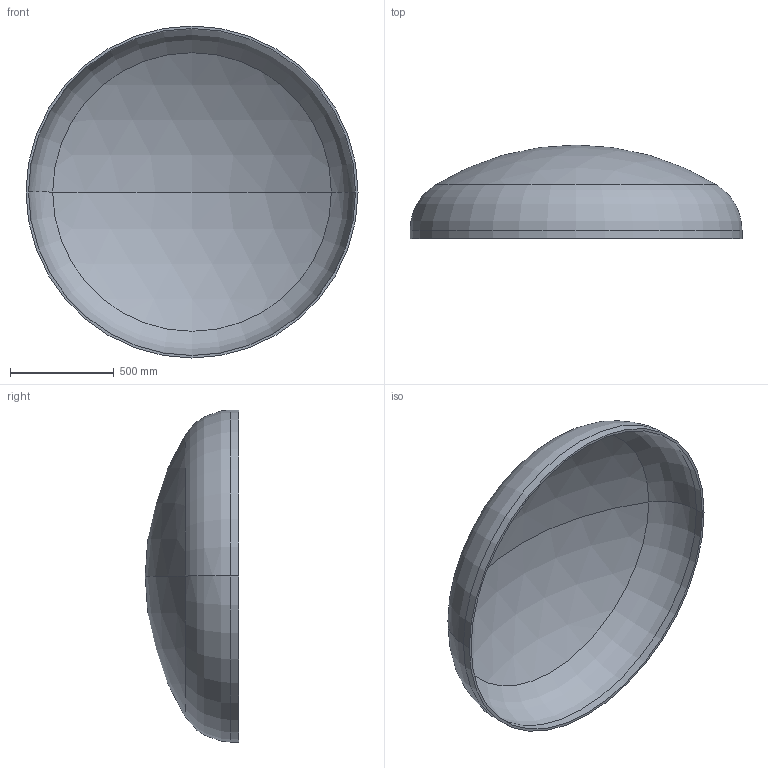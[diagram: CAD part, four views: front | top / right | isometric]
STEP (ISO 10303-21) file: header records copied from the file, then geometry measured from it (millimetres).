
FILE_DESCRIPTION (( 'STEP AP203' ), '1' );
FILE_NAME ('DIN 28013 Korbbogenform_-_Boden DIN 28013 - 1600 x 40 - I - s=12.step', '2016-07-01T11:05:14', ( '' ), ( '' ), 'SwSTEP 2.0', 'SolidWorks 2013', '' );
FILE_SCHEMA (( 'CONFIG_CONTROL_DESIGN' ));
Length unit declared in the file: millimetre
Products named in the file (1): DIN 28013 Korbbogenform_-_Boden DIN 28013 - 1600 x 40 - I - s=12
Bounding box: 1600 x 450.88 x 1600 mm (x, y, z)
Volume: 35444598.5 mm3; surface area: 5967598.6 mm2
Topology: 1 solids, 1 shells, 13 faces, 24 edges, 14 vertices
Faces by surface type: torus 4, cylinder 4, sphere 4, plane 1
Entity records: 407 total; most frequent: DIRECTION 72, CARTESIAN_POINT 52, ORIENTED_EDGE 48, AXIS2_PLACEMENT_3D 34, EDGE_CURVE 24, CIRCLE 20, VERTEX_POINT 14, EDGE_LOOP 14
